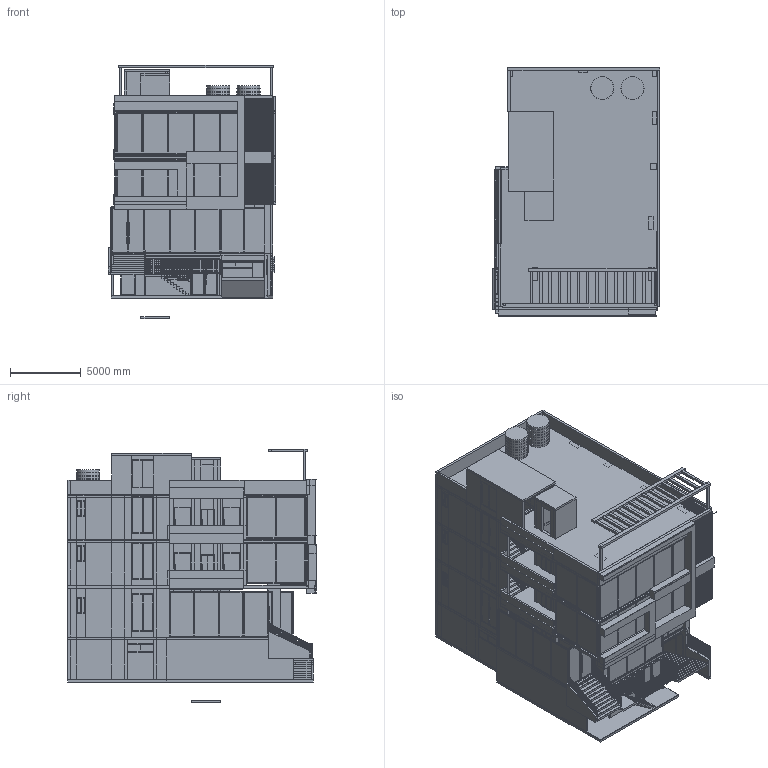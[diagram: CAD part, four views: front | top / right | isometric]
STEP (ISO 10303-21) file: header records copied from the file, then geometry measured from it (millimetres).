
FILE_DESCRIPTION(('Open CASCADE Model'),'2;1');
FILE_NAME('Open CASCADE Shape Model','2026-09-13T14:32:43',('Author'),( 'Open CASCADE'),'Open CASCADE STEP processor 7.7','Open CASCADE 7.7' ,'Unknown');
FILE_SCHEMA(('AUTOMOTIVE_DESIGN { 1 0 10303 214 1 1 1 1 }'));
Length unit declared in the file: millimetre
Products named in the file (3703): Indiranagar_Revised_R01; B_slabs_0000_B_floor_slab; B_slabs_0000_B_floor_slab_part; B_floors_0001_B_floor_finish; B_floors_0001_B_floor_finish_part; G_slabs_0002_G_floor_slab; G_slabs_0002_G_floor_slab_part; G_floors_0003_G_floor_finish; G_floors_0003_G_floor_finish_part; F1_slabs_0004_F1_floor_slab; F1_slabs_0004_F1_floor_slab_part; F1_floors_0005_F1_floor_finish; F1_floors_0005_F1_floor_finish_part; F2_slabs_0006_F2_floor_slab; F2_slabs_0006_F2_floor_slab_part; F2_floors_0007_F2_floor_finish; F2_floors_0007_F2_floor_finish_part; T_slabs_0008_T_floor_slab; T_slabs_0008_T_floor_slab_part; T_floors_0009_T_floor_finish; T_floors_0009_T_floor_finish_part; G_slabs_0010_Local_thicker_basement_roof_slab; G_slabs_0010_Local_thicker_basement_roof_slab_part; B_columns_0011_B_column_1; B_columns_0011_B_column_1_part; B_columns_0012_B_column_2; B_columns_0012_B_column_2_part; B_columns_0013_B_column_3; B_columns_0013_B_column_3_part; B_columns_0014_B_column_4; B_columns_0014_B_column_4_part; B_columns_0015_B_column_5; B_columns_0015_B_column_5_part; B_columns_0016_B_column_6; B_columns_0016_B_column_6_part; B_columns_0017_B_column_7; B_columns_0017_B_column_7_part; B_columns_0018_B_column_8; B_columns_0018_B_column_8_part; B_columns_0019_B_column_9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
Assembly tree (3702 placements, depth 3):
  Indiranagar_Revised_R01
    B_slabs_0000_B_floor_slab
      B_slabs_0000_B_floor_slab_part
    B_floors_0001_B_floor_finish
      B_floors_0001_B_floor_finish_part
    G_slabs_0002_G_floor_slab
      G_slabs_0002_G_floor_slab_part
    G_floors_0003_G_floor_finish
      G_floors_0003_G_floor_finish_part
    F1_slabs_0004_F1_floor_slab
      F1_slabs_0004_F1_floor_slab_part
    F1_floors_0005_F1_floor_finish
      F1_floors_0005_F1_floor_finish_part
    F2_slabs_0006_F2_floor_slab
      F2_slabs_0006_F2_floor_slab_part
    F2_floors_0007_F2_floor_finish
      F2_floors_0007_F2_floor_finish_part
    T_slabs_0008_T_floor_slab
      T_slabs_0008_T_floor_slab_part
    T_floors_0009_T_floor_finish
      T_floors_0009_T_floor_finish_part
    G_slabs_0010_Local_thicker_basement_roof_slab
      G_slabs_0010_Local_thicker_basement_roof_slab_part
    B_columns_0011_B_column_1
      B_columns_0011_B_column_1_part
    B_columns_0012_B_column_2
      B_columns_0012_B_column_2_part
    B_columns_0013_B_column_3
      B_columns_0013_B_column_3_part
    B_columns_0014_B_column_4
      B_columns_0014_B_column_4_part
    B_columns_0015_B_column_5
      B_columns_0015_B_column_5_part
    B_columns_0016_B_column_6
      B_columns_0016_B_column_6_part
    B_columns_0017_B_column_7
      B_columns_0017_B_column_7_part
    B_columns_0018_B_column_8
      B_columns_0018_B_column_8_part
    B_columns_0019_B_column_9
      B_columns_0019_B_column_9_part
    B_columns_0020_B_column_10
      B_columns_0020_B_column_10_part
    B_columns_0021_B_column_11
      B_columns_0021_B_column_11_part
    G_columns_0022_G_column_1
      G_columns_0022_G_column_1_part
    G_columns_0023_G_column_2
      G_columns_0023_G_column_2_part
    G_columns_0024_G_column_3
      G_columns_0024_G_column_3_part
    G_columns_0025_G_column_4
      G_columns_0025_G_column_4_part
    G_columns_0026_G_column_5
      G_columns_0026_G_column_5_part
    G_columns_0027_G_column_6
      G_columns_0027_G_column_6_part
    G_columns_0028_G_column_7
      G_columns_0028_G_column_7_part
    G_columns_0029_G_column_8
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Bounding box: 11787.17 x 17512.67 x 17907 mm (x, y, z)
Volume: 404062970827.7 mm3; surface area: 7378422906.1 mm2
Topology: 1851 solids, 1851 shells, 10628 faces, 20778 edges, 13852 vertices
Faces by surface type: plane 10381, cylinder 247
Full cylindrical faces by diameter (mm): 15.24 x174, 30.48 x10, 33.02 x24, 40.64 x15, 50.8 x8, 1600.2 x2, 1625.6 x14
Entity records: 614030 total; most frequent: DIRECTION 91490, CARTESIAN_POINT 90517, LINE 61346, VECTOR 61346, ORIENTED_EDGE 41556, PCURVE 41556, DEFINITIONAL_REPRESENTATION 41556, EDGE_CURVE 20778
